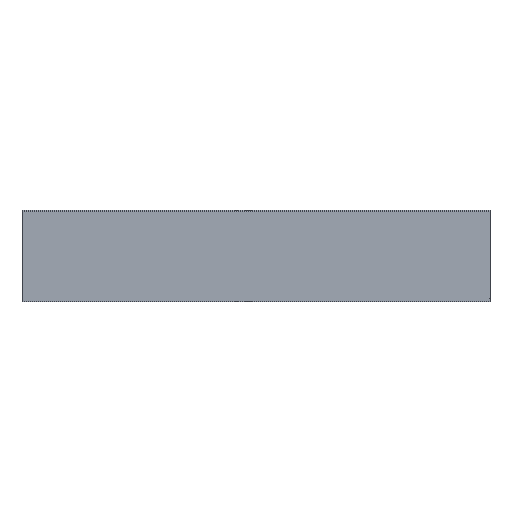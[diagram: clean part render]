
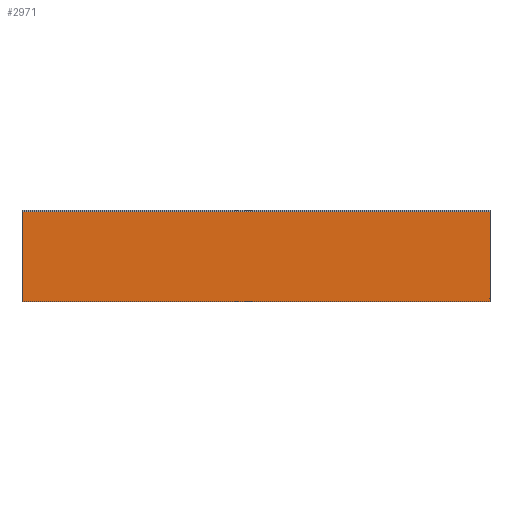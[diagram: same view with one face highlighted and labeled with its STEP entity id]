
A CAD part, left-side view. The second image highlights one B-rep face of the part: STEP entity #2971.
In plain terms, the highlighted planar face has unit normal (-1, 0, 0).
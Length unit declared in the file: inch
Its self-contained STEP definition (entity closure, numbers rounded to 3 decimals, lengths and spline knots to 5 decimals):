
#169 = FACE_OUTER_BOUND ( 'NONE', #3030, .T. ) ;
#192 = VERTEX_POINT ( 'NONE', #2853 ) ;
#208 = CARTESIAN_POINT ( 'NONE',  ( 0., 0., 0. ) ) ;
#233 = AXIS2_PLACEMENT_3D ( 'NONE', #6103, #4000, #5669 ) ;
#514 = ORIENTED_EDGE ( 'NONE', *, *, #6525, .T. ) ;
#1159 = LINE ( 'NONE', #3789, #1620 ) ;
#1620 = VECTOR ( 'NONE', #3360, 39.37008 ) ;
#1768 = DIRECTION ( 'NONE',  ( 0., -1., 0. ) ) ;
#2090 = VERTEX_POINT ( 'NONE', #5407 ) ;
#2209 = LINE ( 'NONE', #6110, #6019 ) ;
#2254 = ORIENTED_EDGE ( 'NONE', *, *, #6362, .F. ) ;
#2439 = DIRECTION ( 'NONE',  ( 0., 0., -1. ) ) ;
#2853 = CARTESIAN_POINT ( 'NONE',  ( 0., 0., 0. ) ) ;
#2971 = ADVANCED_FACE ( 'NONE', ( #169 ), #4441, .F. ) ;
#3025 = LINE ( 'NONE', #6988, #3823 ) ;
#3030 = EDGE_LOOP ( 'NONE', ( #2254, #6380, #6827, #514 ) ) ;
#3360 = DIRECTION ( 'NONE',  ( 0., 0., -1. ) ) ;
#3427 = CARTESIAN_POINT ( 'NONE',  ( 0., -4.6, 0.885 ) ) ;
#3465 = VECTOR ( 'NONE', #1768, 39.37008 ) ;
#3501 = CARTESIAN_POINT ( 'NONE',  ( 0., -4.6, 0. ) ) ;
#3789 = CARTESIAN_POINT ( 'NONE',  ( 0., -4.6, 0.9 ) ) ;
#3823 = VECTOR ( 'NONE', #2439, 39.37008 ) ;
#4000 = DIRECTION ( 'NONE',  ( 1., 0., 0. ) ) ;
#4418 = DIRECTION ( 'NONE',  ( 0., 1., 0. ) ) ;
#4441 = PLANE ( 'NONE',  #233 ) ;
#4993 = EDGE_CURVE ( 'NONE', #5118, #2090, #2209, .T. ) ;
#5118 = VERTEX_POINT ( 'NONE', #3427 ) ;
#5171 = VERTEX_POINT ( 'NONE', #3501 ) ;
#5407 = CARTESIAN_POINT ( 'NONE',  ( 0., 0., 0.885 ) ) ;
#5615 = EDGE_CURVE ( 'NONE', #2090, #192, #3025, .T. ) ;
#5669 = DIRECTION ( 'NONE',  ( 0., 1., 0. ) ) ;
#6019 = VECTOR ( 'NONE', #4418, 39.37008 ) ;
#6103 = CARTESIAN_POINT ( 'NONE',  ( 0., 0., 0.9 ) ) ;
#6110 = CARTESIAN_POINT ( 'NONE',  ( 0., 0., 0.885 ) ) ;
#6362 = EDGE_CURVE ( 'NONE', #5118, #5171, #1159, .T. ) ;
#6380 = ORIENTED_EDGE ( 'NONE', *, *, #4993, .T. ) ;
#6525 = EDGE_CURVE ( 'NONE', #192, #5171, #6742, .T. ) ;
#6742 = LINE ( 'NONE', #208, #3465 ) ;
#6827 = ORIENTED_EDGE ( 'NONE', *, *, #5615, .T. ) ;
#6988 = CARTESIAN_POINT ( 'NONE',  ( 0., 0., 0.9 ) ) ;
